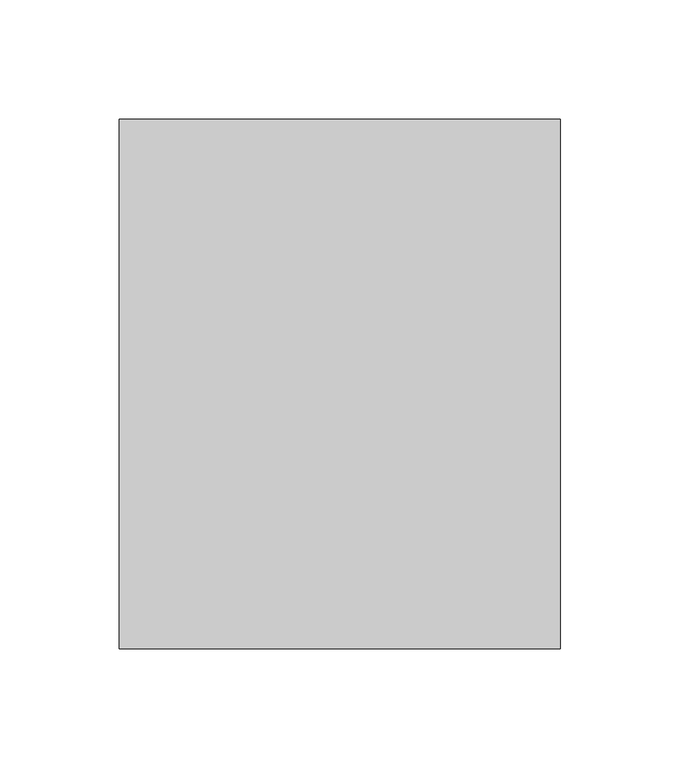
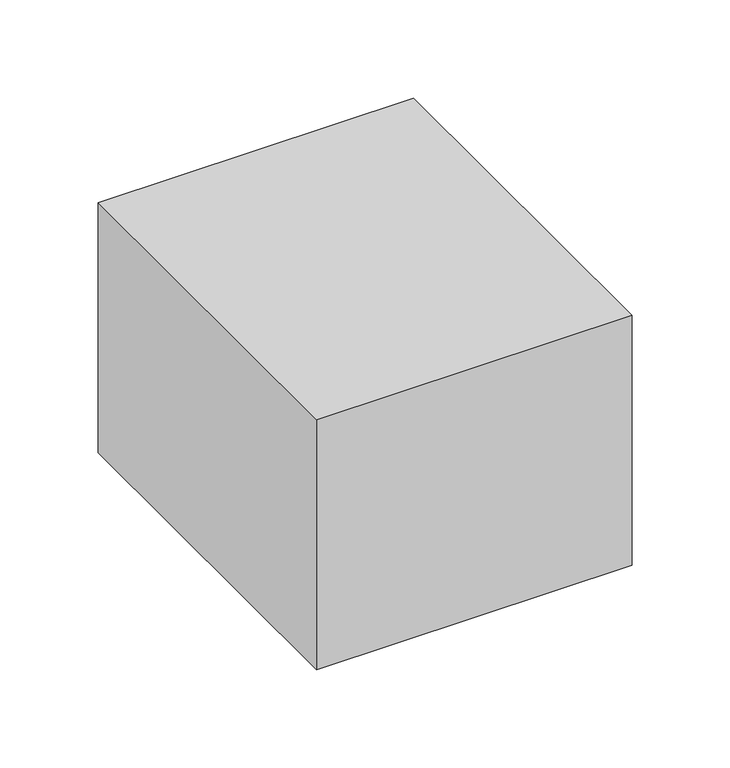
"""IFC4 building model written with IfcOpenShell, lengths in millimetres: light fixture geometry,  214 :  212124."""

import ifcopenshell
import ifcopenshell.guid

model = None  # the IFC model being written
_history = None  # IfcOwnerHistory: only IFC2X3 demands one
_inside = {}  # id of a spatial element -> (the spatial element, [elements in it])
_under = {}  # id of a project, library or spatial element -> (it, [spatial elements below it])
_declared = {}  # id of a project -> (the project, [libraries it declares])
_typed = {}  # id of a type object -> (the type object, [elements of that type])
_made_of = {}  # id of a material, layer set ... -> (it, [elements and type objects made of it])


def new_model(schema):
    """Start an empty IFC model of exactly this schema.

    Asked for "IFC4X3", IfcOpenShell would pick the latest addendum, in which some entities
    have other attributes; the version numbers below select the first issue.
    IFC2X3 requires an IfcOwnerHistory on every rooted entity: one is made here for all.
    """
    global model, _history
    if schema == "IFC4X3":
        model = ifcopenshell.file(schema_version=(4, 3, 0, 0))
    else:
        model = ifcopenshell.file(schema=schema)
    _inside.clear()
    _under.clear()
    _declared.clear()
    _typed.clear()
    _made_of.clear()
    _history = None
    if model.schema == "IFC2X3":
        org = make("IfcOrganization", Name="unknown")
        user = make(
            "IfcPersonAndOrganization",
            ThePerson=make("IfcPerson", FamilyName="unknown"),
            TheOrganization=org,
        )
        app = make(
            "IfcApplication",
            ApplicationDeveloper=org,
            Version="unknown",
            ApplicationFullName="unknown",
            ApplicationIdentifier="unknown",
        )
        _history = make(
            "IfcOwnerHistory",
            OwningUser=user,
            OwningApplication=app,
            ChangeAction="ADDED",
            CreationDate=0,
        )
    return model


def make(cls, **values):
    """One entity of the class cls with the attributes given. An attribute that is None is left unset."""
    return model.create_entity(
        cls, **{name: value for name, value in values.items() if value is not None}
    )


def rooted(cls, **values):
    """An entity with a GlobalId (a new one), such as an element, a storey or a relation."""
    return make(cls, GlobalId=ifcopenshell.guid.new(), OwnerHistory=_history, **values)


def si_unit(unit_type, name, prefix=None):
    """IfcSIUnit, for example si_unit("LENGTHUNIT", "METRE", prefix="MILLI")."""
    return make("IfcSIUnit", UnitType=unit_type, Prefix=prefix, Name=name)


def assignment(units):
    """IfcUnitAssignment: the units of a project."""
    return None if units is None else make("IfcUnitAssignment", Units=units)


def point(xyz):
    """IfcCartesianPoint."""
    return None if xyz is None else make("IfcCartesianPoint", Coordinates=xyz)


def direction(xyz):
    """IfcDirection."""
    return None if xyz is None else make("IfcDirection", DirectionRatios=xyz)


def frame(location, z_axis=None, x_axis=None):
    """IfcAxis2Placement3D, a coordinate frame: its origin and axes. An axis left out is left unset."""
    return make(
        "IfcAxis2Placement3D",
        Location=point(location),
        Axis=direction(z_axis),
        RefDirection=direction(x_axis),
    )


def origin():
    """The frame at (0, 0, 0) with its axes left unset."""
    return frame((0.0, 0.0, 0.0))


def place(relative_to, where):
    """IfcLocalPlacement: puts the frame where relative to a parent placement (None: the world)."""
    return make(
        "IfcLocalPlacement", PlacementRelTo=relative_to, RelativePlacement=where
    )


def context(
    kind, dimensions, precision=None, world=None, true_north=None, identifier=None
):
    """IfcGeometricRepresentationContext, for example the 3D "Model" context."""
    return make(
        "IfcGeometricRepresentationContext",
        ContextIdentifier=identifier,
        ContextType=kind,
        CoordinateSpaceDimension=dimensions,
        Precision=precision,
        WorldCoordinateSystem=world,
        TrueNorth=true_north,
    )


def project(units=None, contexts=None):
    """IfcProject with its units and contexts."""
    return rooted(
        "IfcProject",
        Name="project",
        RepresentationContexts=contexts,
        UnitsInContext=assignment(units),
    )


def spatial(cls, under=None, at=None, **own):
    """A site, building, storey or space (cls), placed at a placement, below another one or the project."""
    s = rooted(cls, ObjectPlacement=at, **own)
    if under is not None:
        _under.setdefault(under.id(), (under, []))[1].append(s)
    return s


def polyline(points):
    """IfcPolyline through the points."""
    return make("IfcPolyline", Points=[point(p) for p in points])


def outline(outer, holes=None, kind="AREA"):
    """IfcArbitraryClosedProfileDef: a profile drawn as a closed curve; with holes, ...WithVoids."""
    if holes is None:
        return make("IfcArbitraryClosedProfileDef", ProfileType=kind, OuterCurve=outer)
    return make(
        "IfcArbitraryProfileDefWithVoids",
        ProfileType=kind,
        OuterCurve=outer,
        InnerCurves=holes,
    )


def extrude(swept, where, along, depth):
    """IfcExtrudedAreaSolid: the profile swept, set in the frame where, extruded along a direction by depth."""
    return make(
        "IfcExtrudedAreaSolid",
        SweptArea=swept,
        Position=where,
        ExtrudedDirection=direction(along),
        Depth=depth,
    )


def shape(context_of_items, identifier, shape_type, items):
    """IfcShapeRepresentation: the items that make up one representation, for example the "Body"."""
    return make(
        "IfcShapeRepresentation",
        ContextOfItems=context_of_items,
        RepresentationIdentifier=identifier,
        RepresentationType=shape_type,
        Items=items,
    )


def source(mapping_origin, context_of_items, identifier, shape_type, items):
    """IfcRepresentationMap: a shape defined once, which mapped items show again and again."""
    return make(
        "IfcRepresentationMap",
        MappingOrigin=mapping_origin,
        MappedRepresentation=shape(context_of_items, identifier, shape_type, items),
    )


def transform(
    local_origin,
    x_axis=None,
    y_axis=None,
    z_axis=None,
    scale=None,
    scale2=None,
    scale3=None,
    uniform=True,
):
    """IfcCartesianTransformationOperator3D, or its non-uniform kind. x_axis, y_axis, z_axis: its Axis1, 2, 3."""
    if uniform:
        return make(
            "IfcCartesianTransformationOperator3D",
            Axis1=direction(x_axis),
            Axis2=direction(y_axis),
            LocalOrigin=point(local_origin),
            Scale=scale,
            Axis3=direction(z_axis),
        )
    return make(
        "IfcCartesianTransformationOperator3DnonUniform",
        Axis1=direction(x_axis),
        Axis2=direction(y_axis),
        LocalOrigin=point(local_origin),
        Scale=scale,
        Axis3=direction(z_axis),
        Scale2=scale2,
        Scale3=scale3,
    )


def mapped(mapping_source, mapping_target):
    """IfcMappedItem: shows the shape of a source again, moved by a transform."""
    return make(
        "IfcMappedItem", MappingSource=mapping_source, MappingTarget=mapping_target
    )


def made_of(thing, what):
    """Note that an element or type object is made of a material, layer set ...; save() writes the relation."""
    if what is not None:
        _made_of.setdefault(what.id(), (what, []))[1].append(thing)
    return thing


def element(
    cls,
    number,
    at=None,
    inside=None,
    cuts=None,
    type_object=None,
    material=None,
    context=None,
    identifier="Body",
    shape_type=None,
    held_by="IfcProductDefinitionShape",
    body=None,
    shapes=None,
    **own,
):
    """One element of the class cls, such as IfcWall. Its Tag is "e" and its number.

    at: its placement. inside: the storey or other place that contains it. cuts: it is an
    opening in that element (IfcRelVoidsElement). A single representation is given by context,
    identifier, shape_type and body (its items); several are given by shapes. held_by: the class
    of the entity that holds the representations. save() writes the other relations.
    """
    e = rooted(cls, Tag="e%d" % number, ObjectPlacement=at, **own)
    if body is not None:
        shapes = [shape(context, identifier, shape_type, body)]
    if shapes is not None:
        e.Representation = make(held_by, Representations=shapes)
    if inside is not None:
        _inside.setdefault(inside.id(), (inside, []))[1].append(e)
    if cuts is not None:
        rooted(
            "IfcRelVoidsElement", RelatingBuildingElement=cuts, RelatedOpeningElement=e
        )
    if type_object is not None:
        _typed.setdefault(type_object.id(), (type_object, []))[1].append(e)
    return made_of(e, material)


def aggregate(whole, parts):
    """IfcRelAggregates: a whole, such as a stair, and the parts it consists of."""
    return rooted("IfcRelAggregates", RelatingObject=whole, RelatedObjects=parts)


def save(model, path):
    """Write the relations noted so far, then the file.

    IfcRelAggregates (storeys below a building ...), IfcRelContainedInSpatialStructure (elements
    in a storey), IfcRelDefinesByType, IfcRelAssociatesMaterial and IfcRelDeclares: one each for
    every whole, place, type object, material and project.
    """
    for whole, parts in _under.values():
        aggregate(whole, parts)
    for where, things in _inside.values():
        rooted(
            "IfcRelContainedInSpatialStructure",
            RelatedElements=things,
            RelatingStructure=where,
        )
    for kind, things in _typed.values():
        rooted("IfcRelDefinesByType", RelatedObjects=things, RelatingType=kind)
    for what, things in _made_of.values():
        rooted("IfcRelAssociatesMaterial", RelatedObjects=things, RelatingMaterial=what)
    for by, libraries in _declared.values():
        rooted("IfcRelDeclares", RelatingContext=by, RelatedDefinitions=libraries)
    model.write(path)


def light_fixture_d1f52d2e(model_context):
    return source(origin(), model_context, "Body", "SweptSolid", [
        extrude(outline(polyline([(9751.2746511, 12896.7121745), (9936.2746511, 12896.7121745), (9936.2746511, 12674.7121745), (9751.2746511, 12674.7121745), (9751.2746511, 12896.7121745)])), frame((0.0, 0.0, 1375.0), z_axis=(0.0, 0.0, 1.0), x_axis=(1.0, 0.0, 0.0)), (0.0, 0.0, 1.0), 155.0),
    ])


if __name__ == "__main__":
    model = new_model("IFC4")
    model_context = context("Model", 3, world=origin())
    ifc_project = project(units=[si_unit("LENGTHUNIT", "METRE", prefix="MILLI")], contexts=[model_context])
    site = spatial("IfcSite", under=ifc_project)
    building = spatial("IfcBuilding", under=site)
    placement = place(None, origin())
    light_fixture_shape = light_fixture_d1f52d2e(model_context)
    element("IfcLightFixture", 1, ObjectType=" 214 :  212124", at=placement, inside=building, context=model_context, shape_type="MappedRepresentation", body=[
        mapped(light_fixture_shape, transform((0.0, 0.0, 0.0), x_axis=(1.0, 0.0, 0.0), y_axis=(0.0, 1.0, 0.0), z_axis=(0.0, 0.0, 1.0))),
    ])
    save(model, "model.ifc")
